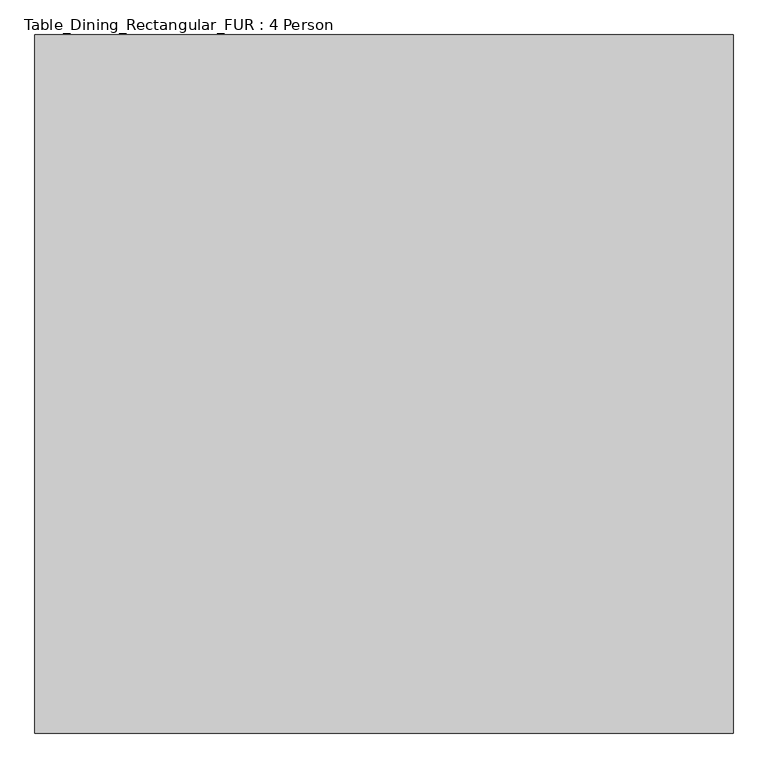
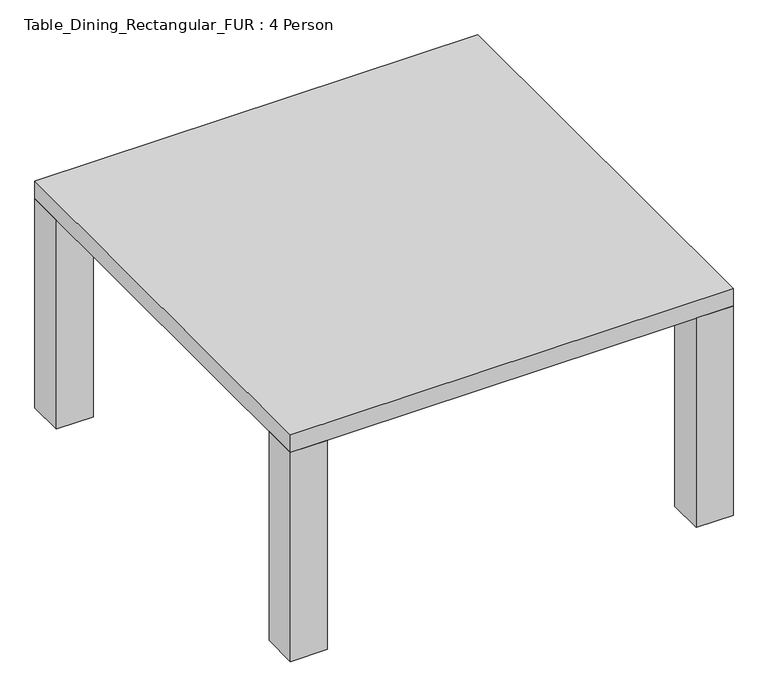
"""IFC4 building model written with IfcOpenShell, lengths in millimetres: furniture geometry, Table_Dining_Rectangular_FUR : 4 Person."""

from ifc_helpers import new_model, si_unit, frame, origin, origin_with_axes, place, context, project, spatial, polyline, outline, extrude, source, transform, mapped, element, save


def table_dining_rectangular_fur_4_person_000a98f8(model_context):
    return source(origin(), model_context, "Body", "SweptSolid", [
        extrude(outline(polyline([(-500.0, 600.0), (-500.0, 500.0), (-600.0, 500.0), (-600.0, 600.0), (-500.0, 600.0)])), origin_with_axes(), (0.0, 0.0, 1.0), 600.0),
        extrude(outline(polyline([(-500.0, -600.0), (-600.0, -600.0), (-600.0, -500.0), (-500.0, -500.0), (-500.0, -600.0)])), origin_with_axes(), (0.0, 0.0, 1.0), 600.0),
        extrude(outline(polyline([(500.0, 600.0), (600.0, 600.0), (600.0, 500.0), (500.0, 500.0), (500.0, 600.0)])), origin_with_axes(), (0.0, 0.0, 1.0), 600.0),
        extrude(outline(polyline([(500.0, -600.0), (500.0, -500.0), (600.0, -500.0), (600.0, -600.0), (500.0, -600.0)])), origin_with_axes(), (0.0, 0.0, 1.0), 600.0),
        extrude(outline(polyline([(600.0, -600.0), (-600.0, -600.0), (-600.0, 600.0), (600.0, 600.0), (600.0, -600.0)])), frame((0.0, 0.0, 600.0), z_axis=(0.0, 0.0, 1.0), x_axis=(1.0, 0.0, 0.0)), (0.0, 0.0, 1.0), 50.0),
    ])


if __name__ == "__main__":
    model = new_model("IFC4")
    model_context = context("Model", 3, world=origin())
    ifc_project = project(units=[si_unit("LENGTHUNIT", "METRE", prefix="MILLI")], contexts=[model_context])
    site = spatial("IfcSite", under=ifc_project)
    building = spatial("IfcBuilding", under=site)
    placement = place(None, origin())
    table_dining_rectangular_fur_4_person_shape = table_dining_rectangular_fur_4_person_000a98f8(model_context)
    element("IfcFurniture", 1, ObjectType="Table_Dining_Rectangular_FUR : 4 Person", at=placement, inside=building, context=model_context, shape_type="MappedRepresentation", body=[
        mapped(table_dining_rectangular_fur_4_person_shape, transform((0.0, 0.0, 0.0), x_axis=(1.0, 0.0, 0.0), y_axis=(0.0, 1.0, 0.0), z_axis=(0.0, 0.0, 1.0))),
    ])
    save(model, "model.ifc")
